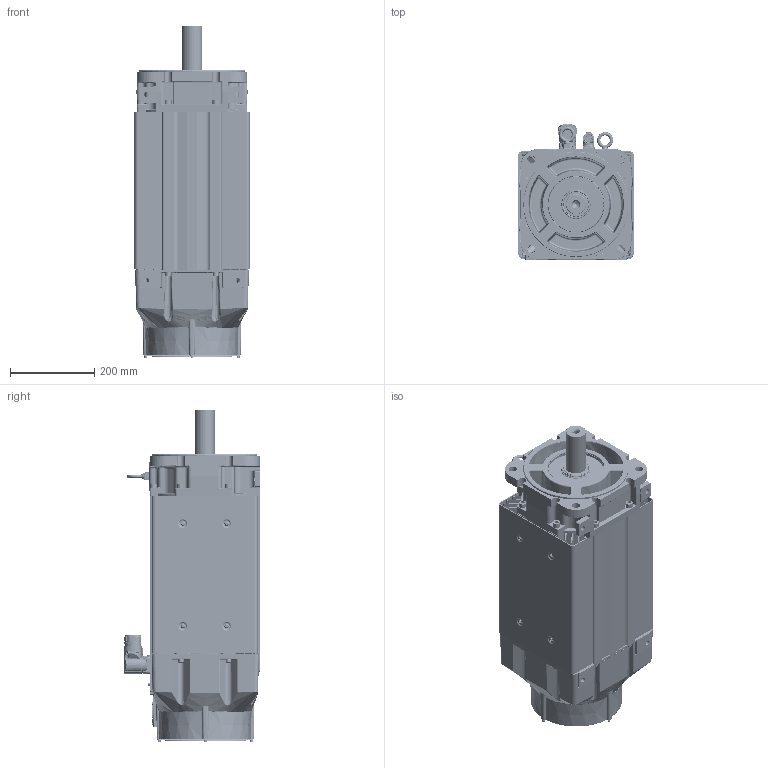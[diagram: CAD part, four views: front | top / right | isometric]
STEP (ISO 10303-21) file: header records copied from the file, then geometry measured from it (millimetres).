
FILE_DESCRIPTION((''),'2;1');
FILE_NAME('VPC-B3003A-SK74FX_ASM','2016-09-27T',('SRGaddam'),('Rockwell Automation'),'PRO/ENGINEER BY PARAMETRIC TECHNOLOGY CORPORATION, 2012480','PRO/ENGINEER BY PARAMETRIC TECHNOLOGY CORPORATION, 2012480','');
FILE_SCHEMA(('CONFIG_CONTROL_DESIGN'));
Products named in the file (41): 10001404634_AF0; 10001404629_AF6; 10001404635_ASM; 10001585735; 10001441962; 10001737030; 10001448103; 10001587021; 10001405269_AF12; 10001405240_AF25; 10001405367_ASM; 10001946256; 10001956852; 10001989665; 10001713549_ASM; M4X7X14-SOCHD-CAP-SCR; 10001978970; 10001336508; 10001587431; CH4X063; 10001299929; 10001284567; 10000172464; 10001445961; 221404-Q12; 10000231113; 10002279234; 10001443420_ASM; 10001609981; 0002-5004; 10001586887; 10001439756; 142403; 125284; 142403-1_ASM; M940_ASM; 142414_623; 135798_623; 142414-1_623_ASM; M623_ASM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
Assembly tree (80 placements, depth 4):
  VPC-B3003A-SK74FX_ASM
    10001404635_ASM
      10001404634_AF0
      10001404629_AF6
    10001585735  x8
    10001441962
    10001737030
    10001448103  x2
    10001587021  x8
    10001405367_ASM
      10001405269_AF12
      10001405240_AF25
    10001443420_ASM
      10001946256
      10001713549_ASM
        10001956852
        10001989665
      M4X7X14-SOCHD-CAP-SCR  x4
      10001978970
      10001336508
      10001587431
      CH4X063  x2
      10001299929
      10001284567
      10000172464  x4
      10001445961
      221404-Q12  x5
      10000231113
      10002279234
    10001609981
    0002-5004  x2
    10001586887  x6
    10001439756
    M940_ASM
      142403-1_ASM
        142403
        125284
      221404-Q12  x4
    M623_ASM
      142414-1_623_ASM
        142414_623
        135798_623
      10000172464  x4
Bounding box: 275.91 x 324.15 x 787.35 mm (x, y, z)
Volume: 12743919.4 mm3; surface area: 3168609.7 mm2
Topology: 84 solids, 85 shells, 8030 faces, 19055 edges, 11451 vertices
Faces by surface type: cylinder 2443, plane 2239, bspline 1318, cone 1199, torus 683, sphere 142, extrusion 6
Entity records: 223169 total; most frequent: CARTESIAN_POINT 95104, ORIENTED_EDGE 27452, DIRECTION 25269, EDGE_CURVE 13726, AXIS2_PLACEMENT_3D 9754, VERTEX_POINT 8497, EDGE_LOOP 6191, VECTOR 5761
